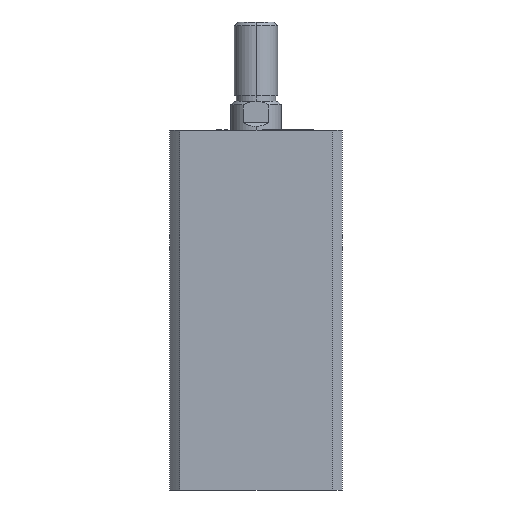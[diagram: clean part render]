
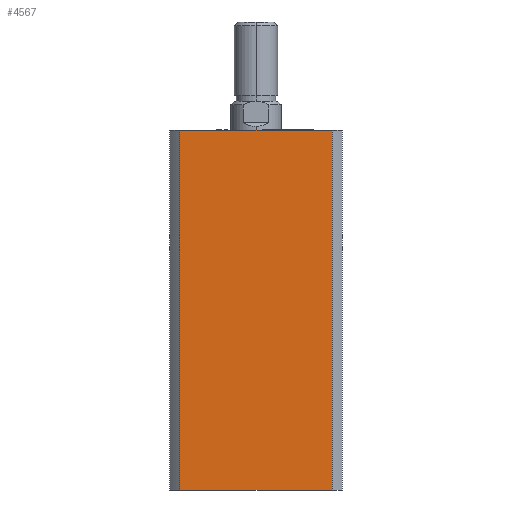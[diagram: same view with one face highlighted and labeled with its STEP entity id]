
A CAD part, left-side view. The second image highlights one B-rep face of the part: STEP entity #4567.
In plain terms, the highlighted planar face has unit normal (-1, 0, 0).
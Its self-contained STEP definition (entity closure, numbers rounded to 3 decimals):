
#343 = VERTEX_POINT ( 'NONE', #1787 ) ;
#350 = VERTEX_POINT ( 'NONE', #1780 ) ;
#489 = LINE ( 'NONE', #3440, #494 ) ;
#490 = LINE ( 'NONE', #3428, #492 ) ;
#491 = LINE ( 'NONE', #3439, #496 ) ;
#492 = VECTOR ( 'NONE', #3435, 1000. ) ;
#494 = VECTOR ( 'NONE', #3445, 1000. ) ;
#496 = VECTOR ( 'NONE', #3447, 1000. ) ;
#516 = LINE ( 'NONE', #3479, #521 ) ;
#521 = VECTOR ( 'NONE', #3474, 1000. ) ;
#906 = EDGE_CURVE ( 'NONE', #350, #343, #490, .T. ) ;
#907 = EDGE_CURVE ( 'NONE', #996, #343, #489, .T. ) ;
#908 = EDGE_CURVE ( 'NONE', #1189, #350, #491, .T. ) ;
#923 = EDGE_CURVE ( 'NONE', #1189, #996, #516, .T. ) ;
#977 = EDGE_LOOP ( 'NONE', ( #4919, #4918, #4917, #4916 ) ) ;
#996 = VERTEX_POINT ( 'NONE', #3538 ) ;
#1189 = VERTEX_POINT ( 'NONE', #3664 ) ;
#1546 = AXIS2_PLACEMENT_3D ( 'NONE', #2980, #2988, #2989 ) ;
#1780 = CARTESIAN_POINT ( 'NONE',  ( -24., 21.166, 0. ) ) ;
#1787 = CARTESIAN_POINT ( 'NONE',  ( -24., -21.166, 0. ) ) ;
#2713 = FACE_OUTER_BOUND ( 'NONE', #977, .T. ) ;
#2980 = CARTESIAN_POINT ( 'NONE',  ( -24., 0., 100. ) ) ;
#2985 = PLANE ( 'NONE',  #1546 ) ;
#2988 = DIRECTION ( 'NONE',  ( 1., 0., 0. ) ) ;
#2989 = DIRECTION ( 'NONE',  ( 0., 0., -1. ) ) ;
#3428 = CARTESIAN_POINT ( 'NONE',  ( -24., 0., 0. ) ) ;
#3435 = DIRECTION ( 'NONE',  ( 0., -1., 0. ) ) ;
#3439 = CARTESIAN_POINT ( 'NONE',  ( -24., 21.166, 100. ) ) ;
#3440 = CARTESIAN_POINT ( 'NONE',  ( -24., -21.166, 100. ) ) ;
#3445 = DIRECTION ( 'NONE',  ( 0., 0., -1. ) ) ;
#3447 = DIRECTION ( 'NONE',  ( 0., 0., -1. ) ) ;
#3474 = DIRECTION ( 'NONE',  ( 0., -1., 0. ) ) ;
#3479 = CARTESIAN_POINT ( 'NONE',  ( -24., 0., 100. ) ) ;
#3538 = CARTESIAN_POINT ( 'NONE',  ( -24., -21.166, 100. ) ) ;
#3664 = CARTESIAN_POINT ( 'NONE',  ( -24., 21.166, 100. ) ) ;
#4567 = ADVANCED_FACE ( 'NONE', ( #2713 ), #2985, .F. ) ;
#4916 = ORIENTED_EDGE ( 'NONE', *, *, #908, .T. ) ;
#4917 = ORIENTED_EDGE ( 'NONE', *, *, #923, .F. ) ;
#4918 = ORIENTED_EDGE ( 'NONE', *, *, #907, .F. ) ;
#4919 = ORIENTED_EDGE ( 'NONE', *, *, #906, .T. ) ;
